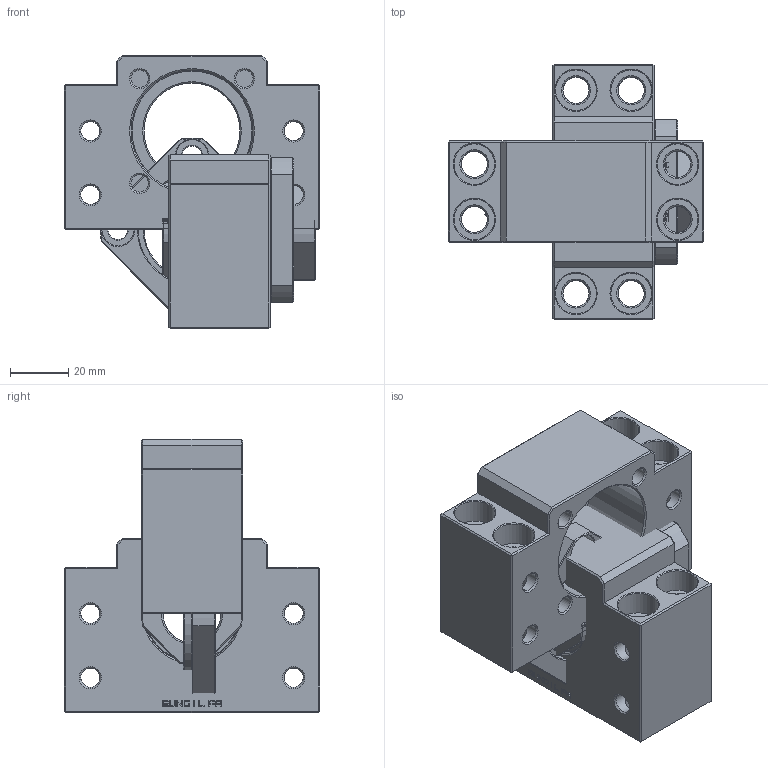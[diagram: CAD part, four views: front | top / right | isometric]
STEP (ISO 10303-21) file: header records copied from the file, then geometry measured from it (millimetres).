
FILE_DESCRIPTION( ( 'Unknown' ), '1' );
FILE_NAME( 'D:/3D/憮んお嶸棉/20060119/SBK TYPE/SBK20/SBK20.stp', 'Unknown', ( 'Unknown' ), ( 'Unknown' ), 'XStep 1.0', 'Unknown', ' ' );
FILE_SCHEMA( ( 'CONFIG_CONTROL_DESIGN' ) );
Length unit declared in the file: millimetre
Products named in the file (10): Assem1; SBK20(collar); SBK20(seal); SBK20(bearing); SBK20(housing); SBK20(holdinglid); SBK20(locknut)
Bounding box: 88 x 88 x 94 mm (x, y, z)
Volume: 312267.7 mm3; surface area: 108722.3 mm2
Topology: 18 solids, 18 shells, 1444 faces, 3804 edges, 2474 vertices
Faces by surface type: plane 690, cylinder 576, cone 174, torus 2, bspline 2
Full cylindrical faces by diameter (mm): 4 x2, 6 x8, 6.6 x32, 9 x8, 11 x8, 14 x8, 20 x10, 25 x8, 29 x2, 33 x8, 37 x2, 42 x8
Entity records: 23017 total; most frequent: CARTESIAN_POINT 4939, DIRECTION 3784, ORIENTED_EDGE 3454, EDGE_CURVE 1727, AXIS2_PLACEMENT_3D 1381, VERTEX_POINT 1187, LINE 1022, VECTOR 1022
